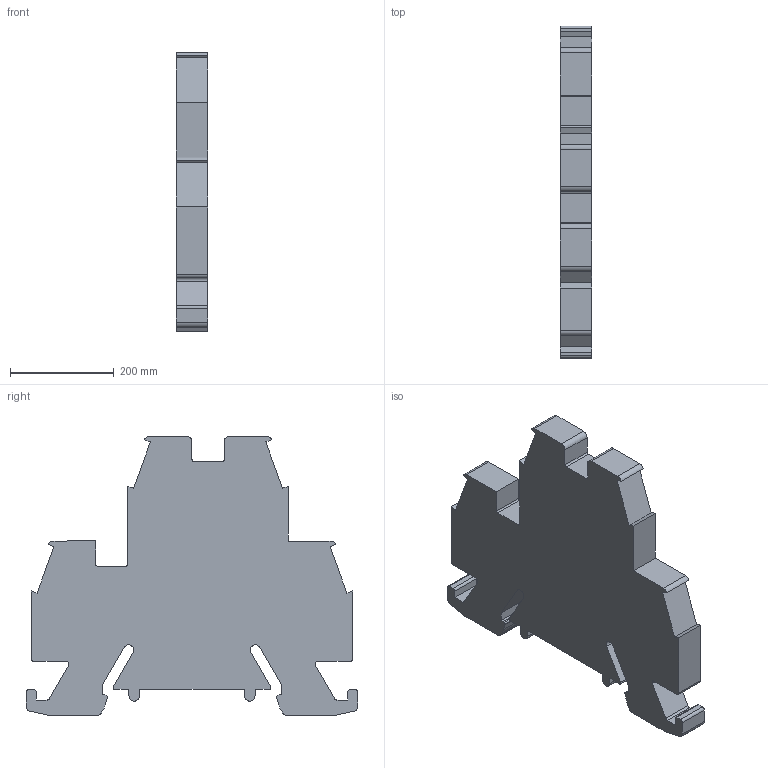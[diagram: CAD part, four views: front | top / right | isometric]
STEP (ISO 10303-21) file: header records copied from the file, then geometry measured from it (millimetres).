
FILE_DESCRIPTION(/* description */ (''),/* implementation_level */ '2;1');
FILE_NAME(/* name */ 'C:\Users\tdlugos1\Downloads\1492-WD4.stp',/* time_stamp */ '2021-06-25T11:21:53+02:00',/* author */ ('TDlugos1'),/* organization */ (''),/* preprocessor_version */ 'ST-DEVELOPER v18',/* originating_system */ 'AutoCAD Mechanical',/* authorisation */ '');
FILE_SCHEMA (('AUTOMOTIVE_DESIGN { 1 0 10303 214 3 1 1 }'));
Length unit declared in the file: centimetre
Products named in the file (1): Product
Bounding box: 60 x 640 x 538.5 mm (x, y, z)
Volume: 13587152.2 mm3; surface area: 652673.9 mm2
Topology: 1 solids, 1 shells, 106 faces, 361 edges, 302 vertices
Faces by surface type: plane 66, cylinder 40
Entity records: 4011 total; most frequent: CARTESIAN_POINT 816, DIRECTION 660, ORIENTED_EDGE 624, EDGE_CURVE 312, LINE 270, VECTOR 270, VERTEX_POINT 208, AXIS2_PLACEMENT_3D 195
